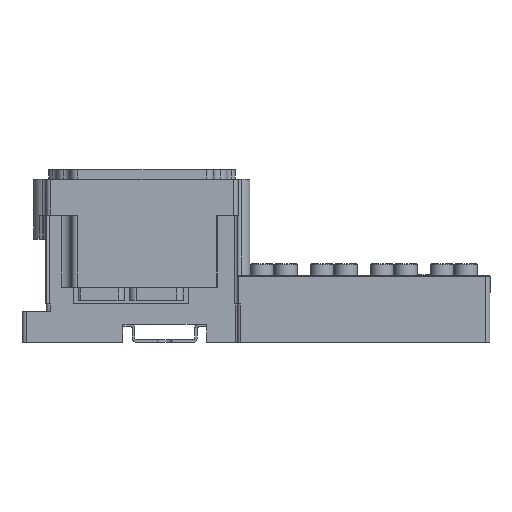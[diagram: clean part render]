
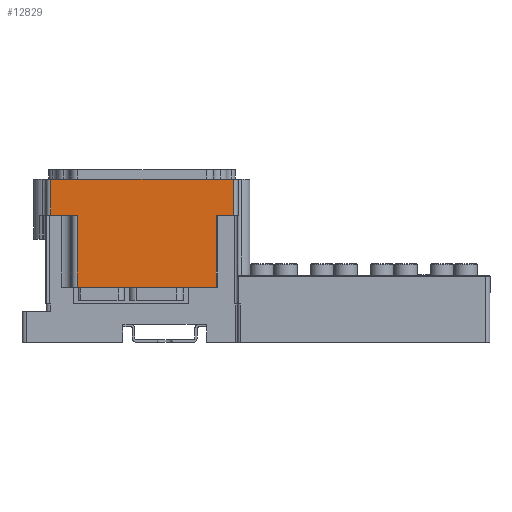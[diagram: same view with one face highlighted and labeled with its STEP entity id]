
A CAD part, left-side view. The second image highlights one B-rep face of the part: STEP entity #12829.
In plain terms, the highlighted planar face has unit normal (-1, 0, 0).
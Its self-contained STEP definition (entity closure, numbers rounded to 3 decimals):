
#2565 = EDGE_CURVE ( 'NONE', #4502, #3480, #27874, .T. ) ;
#2582 = EDGE_CURVE ( 'NONE', #4488, #4437, #27898, .T. ) ;
#2604 = EDGE_CURVE ( 'NONE', #4773, #4475, #27932, .T. ) ;
#2629 = EDGE_CURVE ( 'NONE', #4465, #4466, #27968, .T. ) ;
#3480 = VERTEX_POINT ( 'NONE', #25712 ) ;
#4437 = VERTEX_POINT ( 'NONE', #25808 ) ;
#4465 = VERTEX_POINT ( 'NONE', #25846 ) ;
#4466 = VERTEX_POINT ( 'NONE', #25847 ) ;
#4475 = VERTEX_POINT ( 'NONE', #25856 ) ;
#4488 = VERTEX_POINT ( 'NONE', #25869 ) ;
#4502 = VERTEX_POINT ( 'NONE', #25883 ) ;
#4773 = VERTEX_POINT ( 'NONE', #26154 ) ;
#5590 = EDGE_LOOP ( 'NONE', ( #8835, #8837, #8839, #8840, #8842, #8844, #8847, #8849 ) ) ;
#8835 = ORIENTED_EDGE ( 'NONE', *, *, #30742, .T. ) ;
#8837 = ORIENTED_EDGE ( 'NONE', *, *, #2582, .T. ) ;
#8839 = ORIENTED_EDGE ( 'NONE', *, *, #30743, .T. ) ;
#8840 = ORIENTED_EDGE ( 'NONE', *, *, #2565, .T. ) ;
#8842 = ORIENTED_EDGE ( 'NONE', *, *, #34163, .T. ) ;
#8844 = ORIENTED_EDGE ( 'NONE', *, *, #2604, .T. ) ;
#8847 = ORIENTED_EDGE ( 'NONE', *, *, #30741, .F. ) ;
#8849 = ORIENTED_EDGE ( 'NONE', *, *, #2629, .F. ) ;
#9463 = DIRECTION ( 'NONE',  ( 0., 0., 1. ) ) ;
#9468 = CARTESIAN_POINT ( 'NONE',  ( 111.228, -2.593, 125.075 ) ) ;
#10265 = LINE ( 'NONE', #9468, #10270 ) ;
#10270 = VECTOR ( 'NONE', #9463, 1000. ) ;
#12579 = CARTESIAN_POINT ( 'NONE',  ( 111.228, -6.258, 110.075 ) ) ;
#12588 = CARTESIAN_POINT ( 'NONE',  ( 111.228, 28.445, 125.075 ) ) ;
#12589 = DIRECTION ( 'NONE',  ( 0., -1., 0. ) ) ;
#12671 = DIRECTION ( 'NONE',  ( 0., -1., 0. ) ) ;
#12829 = ADVANCED_FACE ( 'NONE', ( #28618 ), #21343, .T. ) ;
#21339 = CARTESIAN_POINT ( 'NONE',  ( 111.228, 66.445, 125.075 ) ) ;
#21343 = PLANE ( 'NONE',  #22349 ) ;
#21345 = DIRECTION ( 'NONE',  ( -1., 0., 0. ) ) ;
#21346 = DIRECTION ( 'NONE',  ( 0., 0., 1. ) ) ;
#22349 = AXIS2_PLACEMENT_3D ( 'NONE', #21339, #21345, #21346 ) ;
#24147 = DIRECTION ( 'NONE',  ( 0., -1., 0. ) ) ;
#24148 = CARTESIAN_POINT ( 'NONE',  ( 111.228, 29.341, 80.075 ) ) ;
#24209 = DIRECTION ( 'NONE',  ( 0., -1., 0. ) ) ;
#24212 = CARTESIAN_POINT ( 'NONE',  ( 111.228, 63.201, 110.075 ) ) ;
#25712 = CARTESIAN_POINT ( 'NONE',  ( 111.228, -2.593, 80.075 ) ) ;
#25808 = CARTESIAN_POINT ( 'NONE',  ( 111.228, 55.415, 110.075 ) ) ;
#25846 = CARTESIAN_POINT ( 'NONE',  ( 111.228, 66.445, 125.075 ) ) ;
#25847 = CARTESIAN_POINT ( 'NONE',  ( 111.228, -9.555, 125.075 ) ) ;
#25856 = CARTESIAN_POINT ( 'NONE',  ( 111.228, -9.555, 110.075 ) ) ;
#25869 = CARTESIAN_POINT ( 'NONE',  ( 111.228, 66.445, 110.075 ) ) ;
#25883 = CARTESIAN_POINT ( 'NONE',  ( 111.228, 55.415, 80.075 ) ) ;
#26154 = CARTESIAN_POINT ( 'NONE',  ( 111.228, -2.593, 110.075 ) ) ;
#27451 = CARTESIAN_POINT ( 'NONE',  ( 111.228, -9.555, 125.075 ) ) ;
#27452 = DIRECTION ( 'NONE',  ( 0., 0., -1. ) ) ;
#27453 = CARTESIAN_POINT ( 'NONE',  ( 111.228, 66.445, 125.075 ) ) ;
#27454 = DIRECTION ( 'NONE',  ( 0., 0., -1. ) ) ;
#27455 = CARTESIAN_POINT ( 'NONE',  ( 111.228, 55.415, 125.075 ) ) ;
#27456 = DIRECTION ( 'NONE',  ( 0., 0., -1. ) ) ;
#27874 = LINE ( 'NONE', #24148, #27878 ) ;
#27878 = VECTOR ( 'NONE', #24147, 1000. ) ;
#27898 = LINE ( 'NONE', #24212, #27902 ) ;
#27902 = VECTOR ( 'NONE', #24209, 1000. ) ;
#27932 = LINE ( 'NONE', #12579, #27937 ) ;
#27937 = VECTOR ( 'NONE', #12671, 1000. ) ;
#27968 = LINE ( 'NONE', #12588, #27970 ) ;
#27970 = VECTOR ( 'NONE', #12589, 1000. ) ;
#28618 = FACE_OUTER_BOUND ( 'NONE', #5590, .T. ) ;
#30741 = EDGE_CURVE ( 'NONE', #4466, #4475, #32357, .T. ) ;
#30742 = EDGE_CURVE ( 'NONE', #4465, #4488, #32359, .T. ) ;
#30743 = EDGE_CURVE ( 'NONE', #4437, #4502, #32361, .T. ) ;
#32357 = LINE ( 'NONE', #27451, #32360 ) ;
#32359 = LINE ( 'NONE', #27453, #32362 ) ;
#32360 = VECTOR ( 'NONE', #27452, 1000. ) ;
#32361 = LINE ( 'NONE', #27455, #32364 ) ;
#32362 = VECTOR ( 'NONE', #27454, 1000. ) ;
#32364 = VECTOR ( 'NONE', #27456, 1000. ) ;
#34163 = EDGE_CURVE ( 'NONE', #3480, #4773, #10265, .T. ) ;
